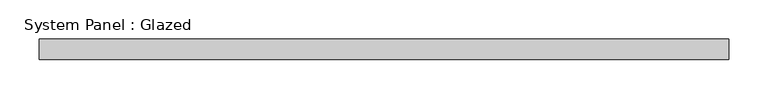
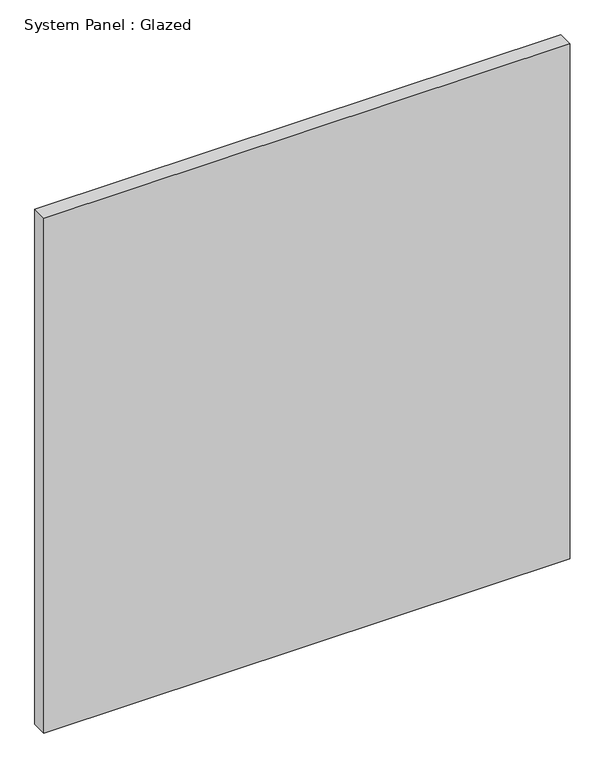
"""IFC4 building model written with IfcOpenShell, lengths in millimetres: plate geometry, System Panel : Glazed."""

from ifc_helpers import new_model, si_unit, origin, origin_with_axes, place, context, project, spatial, polyline, outline, extrude, source, transform, mapped, element, save


def system_panel_glazed_e8f19e38(model_context):
    return source(origin(), model_context, "Body", "SweptSolid", [
        extrude(outline(polyline([(436.4181819, 19.05), (-436.4181819, 19.05), (-436.4181819, 44.45), (436.4181819, 44.45), (436.4181819, 19.05)])), origin_with_axes(), (0.0, 0.0, 1.0), 902.914556),
    ])


if __name__ == "__main__":
    model = new_model("IFC4")
    model_context = context("Model", 3, world=origin())
    ifc_project = project(units=[si_unit("LENGTHUNIT", "METRE", prefix="MILLI")], contexts=[model_context])
    site = spatial("IfcSite", under=ifc_project)
    building = spatial("IfcBuilding", under=site)
    placement = place(None, origin())
    system_panel_glazed_shape = system_panel_glazed_e8f19e38(model_context)
    element("IfcPlate", 1, ObjectType="System Panel : Glazed", at=placement, inside=building, context=model_context, shape_type="MappedRepresentation", body=[
        mapped(system_panel_glazed_shape, transform((0.0, 0.0, 0.0), x_axis=(1.0, 0.0, 0.0), y_axis=(0.0, 1.0, 0.0), z_axis=(0.0, 0.0, 1.0))),
    ])
    save(model, "model.ifc")
